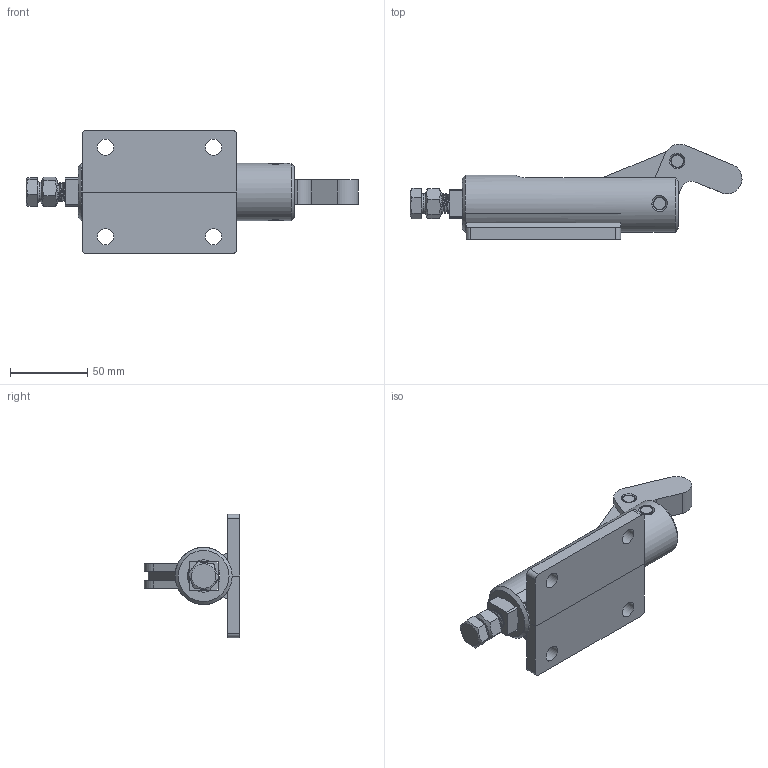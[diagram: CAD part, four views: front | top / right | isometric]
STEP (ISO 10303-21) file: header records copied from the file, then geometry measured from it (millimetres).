
FILE_DESCRIPTION(/* description */ ('STEP AP203'),/* implementation_level */ '2;1');
FILE_NAME(/* name */ 'D:\Vault_2016\Projekty\STRONA\Push-pull clamp\CH-30510M\CH-30510M_OTWARTY.stp',/* time_stamp */ '2019-01-10T16:07:20+01:00',/* author */ ('user'),/* organization */ ('·L?¤¤?'),/* preprocessor_version */ 'ST-DEVELOPER v17.2',/* originating_system */ 'Autodesk Inventor 2019',/* authorisation */ '');
FILE_SCHEMA (('AUTOMOTIVE_DESIGN { 1 0 10303 214 3 1 1 }'));
Products named in the file (11): CH-30510M_OTWARTY; CH-30510M-04___; CH-30510M-01____ûV¡ø_; CH-30509-07___; CH-30510M-02___; CH-30509-09___; CH-30509-08___; M12___; CH-30510M-03___; M12X50___; CH-30509-06___
Assembly tree (10 placements, depth 2):
  CH-30510M_OTWARTY
    CH-30510M-04___
    CH-30510M-01____ûV¡ø_
    CH-30509-07___
    CH-30510M-02___
    CH-30509-09___
    CH-30509-08___
    M12___
    CH-30510M-03___
    M12X50___
    CH-30509-06___
Bounding box: 215.19 x 62.06 x 80 mm (x, y, z)
Volume: 209386.4 mm3; surface area: 88807.7 mm2
Topology: 15 solids, 15 shells, 1023 faces, 2979 edges, 1996 vertices
Faces by surface type: plane 847, cylinder 94, bspline 55, cone 26, torus 1
Full cylindrical faces by diameter (mm): 8 x12, 10.25 x28, 10.5 x8, 12 x2, 12.7 x22, 37 x1
Entity records: 65401 total; most frequent: CARTESIAN_POINT 37902, ORIENTED_EDGE 5956, DIRECTION 5319, EDGE_CURVE 2978, LINE 2101, VECTOR 2101, VERTEX_POINT 1996, AXIS2_PLACEMENT_3D 1609
